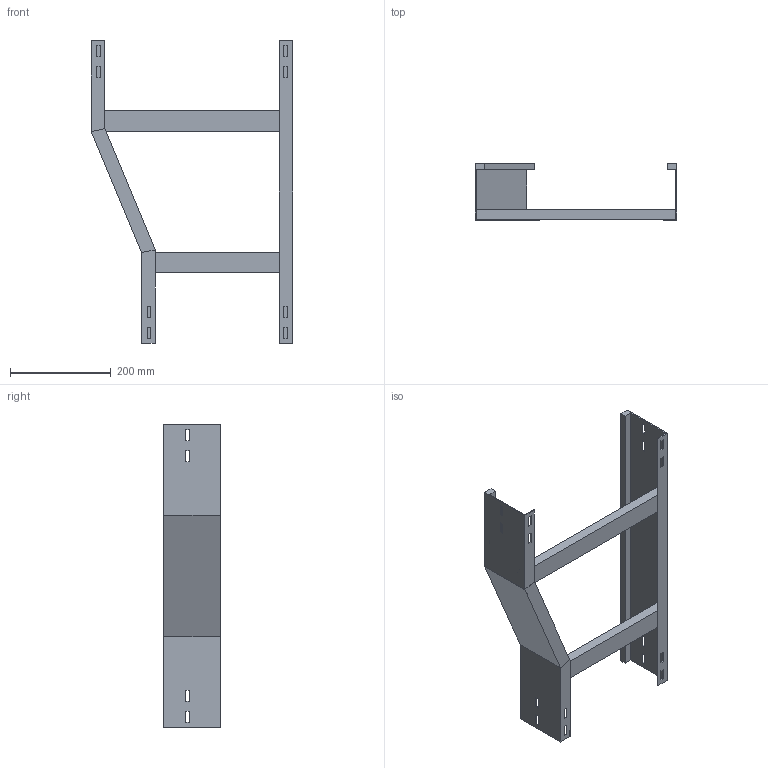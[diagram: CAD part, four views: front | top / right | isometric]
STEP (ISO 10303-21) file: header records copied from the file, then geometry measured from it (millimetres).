
FILE_DESCRIPTION (( 'STEP AP214' ), '1' );
FILE_NAME ('B2X21B3J400XX.step', '2025-09-02T17:16:44', ( '' ), ( '' ), 'SwSTEP 2.0', 'SolidWorks 2023', '' );
FILE_SCHEMA (( 'AUTOMOTIVE_DESIGN' ));
Length unit declared in the file: millimetre
Products named in the file (5): SPONDA DRITTA_H112.5; B2X21B3J400XX; TRAVERSINO_400; TRAVERSINO_300; SPONDA RID. DX 400-300_H112.5
Assembly tree (4 placements, depth 2):
  B2X21B3J400XX
    SPONDA RID. DX 400-300_H112.5
    TRAVERSINO_300
    TRAVERSINO_400
    SPONDA DRITTA_H112.5
Bounding box: 400 x 112.5 x 600 mm (x, y, z)
Volume: 1125332 mm3; surface area: 465188 mm2
Topology: 4 solids, 4 shells, 112 faces, 296 edges, 192 vertices
Faces by surface type: plane 112
Entity records: 3590 total; most frequent: CARTESIAN_POINT 607, ORIENTED_EDGE 592, DIRECTION 534, EDGE_CURVE 296, LINE 296, VECTOR 296, VERTEX_POINT 192, EDGE_LOOP 144
